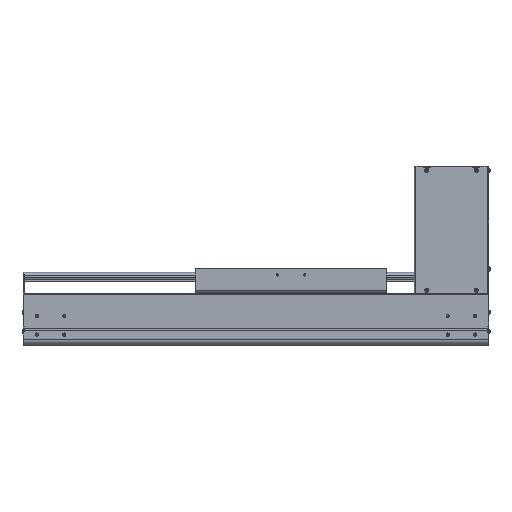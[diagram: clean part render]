
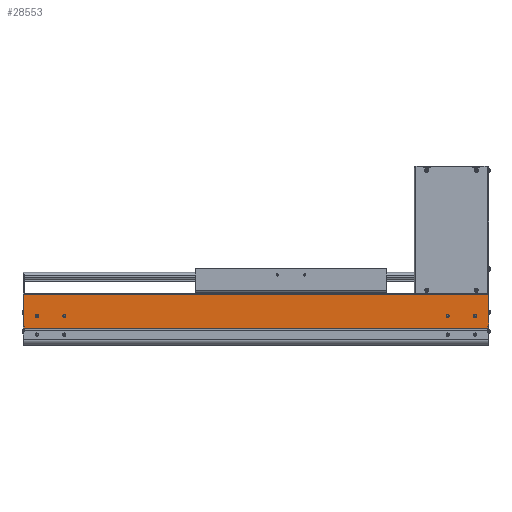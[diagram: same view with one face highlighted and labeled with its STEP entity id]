
A CAD part, top view. The second image highlights one B-rep face of the part: STEP entity #28553.
In plain terms, the highlighted planar face has unit normal (0, 0, 1).
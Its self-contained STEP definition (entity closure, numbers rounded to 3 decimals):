
#599=CARTESIAN_POINT('',(0.,94.,107.));
#7955=DIRECTION('',(-1.,0.,0.));
#7956=VECTOR('',#7955,848.5);
#7957=CARTESIAN_POINT('',(0.,93.5,107.));
#7958=LINE('',#7957,#7956);
#7985=CARTESIAN_POINT('',(-823.5,54.,107.));
#7986=DIRECTION('',(0.,0.,-1.));
#7987=DIRECTION('',(1.,0.,0.));
#7988=AXIS2_PLACEMENT_3D('',#7985,#7986,#7987);
#7990=CARTESIAN_POINT('',(-823.5,54.,107.));
#7991=DIRECTION('',(0.,0.,-1.));
#7992=DIRECTION('',(-1.,0.,0.));
#7993=AXIS2_PLACEMENT_3D('',#7990,#7991,#7992);
#7995=CARTESIAN_POINT('',(-773.5,54.,107.));
#7996=DIRECTION('',(0.,0.,-1.));
#7997=DIRECTION('',(1.,0.,0.));
#7998=AXIS2_PLACEMENT_3D('',#7995,#7996,#7997);
#8000=CARTESIAN_POINT('',(-773.5,54.,107.));
#8001=DIRECTION('',(0.,0.,-1.));
#8002=DIRECTION('',(-1.,0.,0.));
#8003=AXIS2_PLACEMENT_3D('',#8000,#8001,#8002);
#8005=CARTESIAN_POINT('',(-23.5,54.,107.));
#8006=DIRECTION('',(0.,0.,-1.));
#8007=DIRECTION('',(1.,0.,0.));
#8008=AXIS2_PLACEMENT_3D('',#8005,#8006,#8007);
#8010=CARTESIAN_POINT('',(-23.5,54.,107.));
#8011=DIRECTION('',(0.,0.,-1.));
#8012=DIRECTION('',(-1.,0.,0.));
#8013=AXIS2_PLACEMENT_3D('',#8010,#8011,#8012);
#8015=CARTESIAN_POINT('',(-73.5,54.,107.));
#8016=DIRECTION('',(0.,0.,-1.));
#8017=DIRECTION('',(1.,0.,0.));
#8018=AXIS2_PLACEMENT_3D('',#8015,#8016,#8017);
#8020=CARTESIAN_POINT('',(-73.5,54.,107.));
#8021=DIRECTION('',(0.,0.,-1.));
#8022=DIRECTION('',(-1.,0.,0.));
#8023=AXIS2_PLACEMENT_3D('',#8020,#8021,#8022);
#8025=DIRECTION('',(0.,-1.,0.));
#8026=VECTOR('',#8025,2.55);
#8027=CARTESIAN_POINT('',(-846.5,34.65,107.));
#8028=LINE('',#8027,#8026);
#8029=DIRECTION('',(0.,-1.,0.));
#8030=VECTOR('',#8029,58.85);
#8031=CARTESIAN_POINT('',(-848.5,93.5,107.));
#8032=LINE('',#8031,#8030);
#8033=DIRECTION('',(0.,-1.,0.));
#8034=VECTOR('',#8033,0.5);
#8035=CARTESIAN_POINT('',(0.,94.,107.));
#8036=LINE('',#8035,#8034);
#8037=DIRECTION('',(0.,1.,0.));
#8038=VECTOR('',#8037,58.35);
#8039=CARTESIAN_POINT('',(1.5,35.65,107.));
#8040=LINE('',#8039,#8038);
#8041=DIRECTION('',(0.,1.,0.));
#8042=VECTOR('',#8041,3.55);
#8043=CARTESIAN_POINT('',(0.,32.1,107.));
#8044=LINE('',#8043,#8042);
#8045=DIRECTION('',(1.,0.,0.));
#8046=VECTOR('',#8045,846.5);
#8047=CARTESIAN_POINT('',(-846.5,32.1,107.));
#8048=LINE('',#8047,#8046);
#8157=DIRECTION('',(1.,0.,0.));
#8158=VECTOR('',#8157,2.);
#8159=CARTESIAN_POINT('',(-848.5,34.65,107.));
#8160=LINE('',#8159,#8158);
#8185=DIRECTION('',(-1.,0.,0.));
#8186=VECTOR('',#8185,1.5);
#8187=CARTESIAN_POINT('',(1.5,94.,107.));
#8188=LINE('',#8187,#8186);
#8189=DIRECTION('',(1.,0.,0.));
#8190=VECTOR('',#8189,1.5);
#8191=CARTESIAN_POINT('',(0.,35.65,107.));
#8192=LINE('',#8191,#8190);
#14348=CARTESIAN_POINT('',(1.5,94.,107.));
#14349=VERTEX_POINT('',#14348);
#14350=CARTESIAN_POINT('',(1.5,35.65,107.));
#14351=VERTEX_POINT('',#14350);
#14392=VERTEX_POINT('',#599);
#14424=CARTESIAN_POINT('',(-848.5,34.65,107.));
#14425=VERTEX_POINT('',#14424);
#14426=CARTESIAN_POINT('',(-848.5,93.5,107.));
#14427=VERTEX_POINT('',#14426);
#14652=CARTESIAN_POINT('',(-846.5,32.1,107.));
#14653=VERTEX_POINT('',#14652);
#14703=CARTESIAN_POINT('',(0.,32.1,107.));
#14705=VERTEX_POINT('',#14703);
#15082=CARTESIAN_POINT('',(-821.,54.,107.));
#15083=CARTESIAN_POINT('',(-826.,54.,107.));
#15084=VERTEX_POINT('',#15082);
#15085=VERTEX_POINT('',#15083);
#15086=CARTESIAN_POINT('',(-771.,54.,107.));
#15087=CARTESIAN_POINT('',(-776.,54.,107.));
#15088=VERTEX_POINT('',#15086);
#15089=VERTEX_POINT('',#15087);
#15090=CARTESIAN_POINT('',(-21.,54.,107.));
#15091=CARTESIAN_POINT('',(-26.,54.,107.));
#15092=VERTEX_POINT('',#15090);
#15093=VERTEX_POINT('',#15091);
#15094=CARTESIAN_POINT('',(-71.,54.,107.));
#15095=CARTESIAN_POINT('',(-76.,54.,107.));
#15096=VERTEX_POINT('',#15094);
#15097=VERTEX_POINT('',#15095);
#16864=CARTESIAN_POINT('',(0.,35.65,107.));
#16865=VERTEX_POINT('',#16864);
#17110=CARTESIAN_POINT('',(0.,93.5,107.));
#17111=VERTEX_POINT('',#17110);
#17469=CARTESIAN_POINT('',(-846.5,34.65,107.));
#17470=VERTEX_POINT('',#17469);
#28508=CARTESIAN_POINT('',(-423.25,62.8,107.));
#28509=DIRECTION('',(0.,0.,1.));
#28510=DIRECTION('',(0.,-1.,0.));
#28511=AXIS2_PLACEMENT_3D('',#28508,#28509,#28510);
#28512=PLANE('',#28511);
#28513=ORIENTED_EDGE('',*,*,#19659,.F.);
#28515=ORIENTED_EDGE('',*,*,#28514,.F.);
#28516=ORIENTED_EDGE('',*,*,#26126,.F.);
#28517=ORIENTED_EDGE('',*,*,#28497,.F.);
#28518=ORIENTED_EDGE('',*,*,#18772,.F.);
#28520=ORIENTED_EDGE('',*,*,#28519,.F.);
#28521=ORIENTED_EDGE('',*,*,#20658,.F.);
#28523=ORIENTED_EDGE('',*,*,#28522,.F.);
#28524=ORIENTED_EDGE('',*,*,#20420,.F.);
#28526=ORIENTED_EDGE('',*,*,#28525,.F.);
#28527=EDGE_LOOP('',(#28513,#28515,#28516,#28517,#28518,#28520,#28521,#28523,
#28524,#28526));
#28528=FACE_OUTER_BOUND('',#28527,.F.);
#28530=ORIENTED_EDGE('',*,*,#28529,.F.);
#28532=ORIENTED_EDGE('',*,*,#28531,.F.);
#28533=EDGE_LOOP('',(#28530,#28532));
#28534=FACE_BOUND('',#28533,.F.);
#28536=ORIENTED_EDGE('',*,*,#28535,.F.);
#28538=ORIENTED_EDGE('',*,*,#28537,.F.);
#28539=EDGE_LOOP('',(#28536,#28538));
#28540=FACE_BOUND('',#28539,.F.);
#28542=ORIENTED_EDGE('',*,*,#28541,.F.);
#28544=ORIENTED_EDGE('',*,*,#28543,.F.);
#28545=EDGE_LOOP('',(#28542,#28544));
#28546=FACE_BOUND('',#28545,.F.);
#28548=ORIENTED_EDGE('',*,*,#28547,.F.);
#28550=ORIENTED_EDGE('',*,*,#28549,.F.);
#28551=EDGE_LOOP('',(#28548,#28550));
#28552=FACE_BOUND('',#28551,.F.);
#28553=ADVANCED_FACE('',(#28528,#28534,#28540,#28546,#28552),#28512,.T.);
#7989=CIRCLE('',#7988,2.5);
#7994=CIRCLE('',#7993,2.5);
#7999=CIRCLE('',#7998,2.5);
#8004=CIRCLE('',#8003,2.5);
#8009=CIRCLE('',#8008,2.5);
#8014=CIRCLE('',#8013,2.5);
#8019=CIRCLE('',#8018,2.5);
#8024=CIRCLE('',#8023,2.5);
#18772=EDGE_CURVE('',#14392,#17111,#8036,.T.);
#19659=EDGE_CURVE('',#17470,#14653,#8028,.T.);
#20420=EDGE_CURVE('',#14705,#16865,#8044,.T.);
#20658=EDGE_CURVE('',#14351,#14349,#8040,.T.);
#26126=EDGE_CURVE('',#14427,#14425,#8032,.T.);
#28497=EDGE_CURVE('',#17111,#14427,#7958,.T.);
#28514=EDGE_CURVE('',#14425,#17470,#8160,.T.);
#28519=EDGE_CURVE('',#14349,#14392,#8188,.T.);
#28522=EDGE_CURVE('',#16865,#14351,#8192,.T.);
#28525=EDGE_CURVE('',#14653,#14705,#8048,.T.);
#28529=EDGE_CURVE('',#15088,#15089,#7999,.T.);
#28531=EDGE_CURVE('',#15089,#15088,#8004,.T.);
#28535=EDGE_CURVE('',#15092,#15093,#8009,.T.);
#28537=EDGE_CURVE('',#15093,#15092,#8014,.T.);
#28541=EDGE_CURVE('',#15096,#15097,#8019,.T.);
#28543=EDGE_CURVE('',#15097,#15096,#8024,.T.);
#28547=EDGE_CURVE('',#15084,#15085,#7989,.T.);
#28549=EDGE_CURVE('',#15085,#15084,#7994,.T.);
